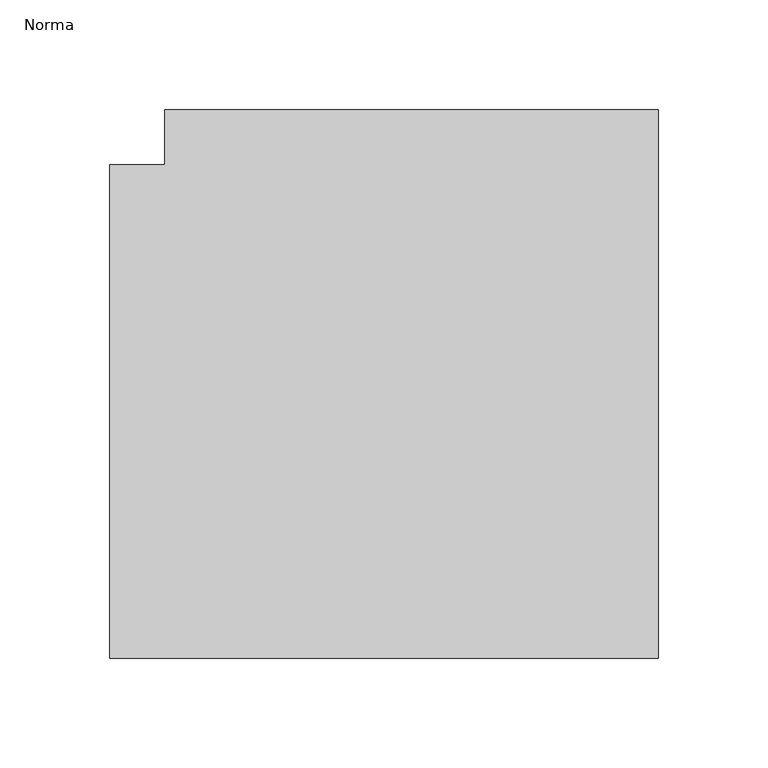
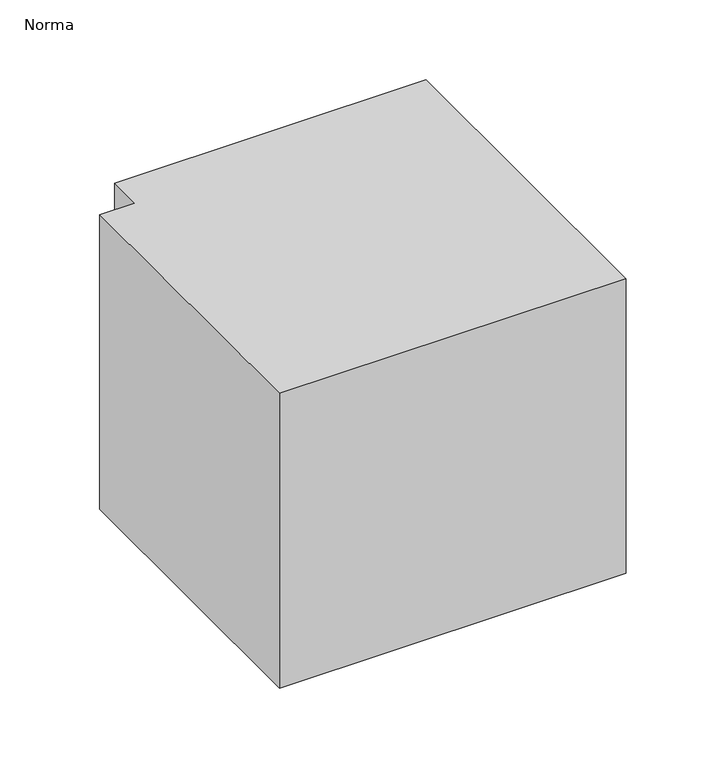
"""IFC4 building model written with IfcOpenShell, lengths in millimetres: duct fitting geometry, M_Codo rectangular - Biselado : Norma."""

from ifc_helpers import new_model, si_unit, frame, origin, place, context, project, spatial, polyline, outline, extrude, source, transform, mapped, element, save


def norma_8356d3b3(model_context):
    return source(origin(), model_context, "Body", "SweptSolid", [
        extrude(outline(polyline([(-137.5, -112.5), (-137.5, 112.5), (-112.5, 112.5), (-112.5, 137.5), (112.5, 137.5), (112.5, -112.5), (-137.5, -112.5)])), frame((0.0, 0.0, -112.5), z_axis=(0.0, 0.0, 1.0), x_axis=(1.0, 0.0, 0.0)), (0.0, 0.0, 1.0), 225.0),
    ])


if __name__ == "__main__":
    model = new_model("IFC4")
    model_context = context("Model", 3, world=origin())
    ifc_project = project(units=[si_unit("LENGTHUNIT", "METRE", prefix="MILLI")], contexts=[model_context])
    site = spatial("IfcSite", under=ifc_project)
    building = spatial("IfcBuilding", under=site)
    placement = place(None, origin())
    norma_shape = norma_8356d3b3(model_context)
    element("IfcDuctFitting", 1, ObjectType="M_Codo rectangular - Biselado : Norma", at=placement, inside=building, context=model_context, shape_type="MappedRepresentation", body=[
        mapped(norma_shape, transform((0.0, 0.0, 0.0), x_axis=(1.0, 0.0, 0.0), y_axis=(0.0, 1.0, 0.0), z_axis=(0.0, 0.0, 1.0))),
    ])
    save(model, "model.ifc")
